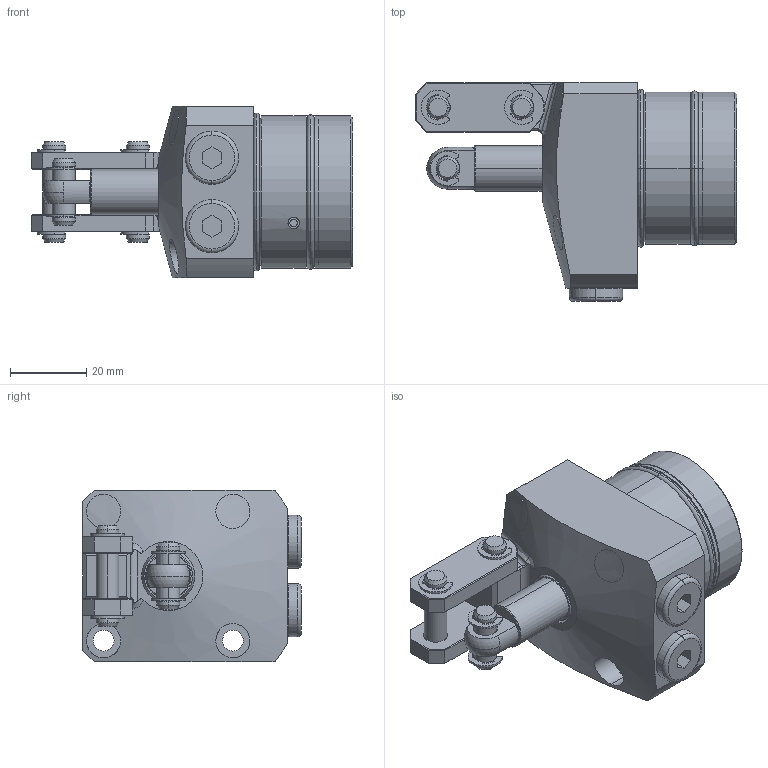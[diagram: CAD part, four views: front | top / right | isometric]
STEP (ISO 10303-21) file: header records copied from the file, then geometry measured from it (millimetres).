
FILE_DESCRIPTION(/* description */ (''),/* implementation_level */ '2;1');
FILE_NAME(/* name */ 'KTPW40-FJ.stp',/* time_stamp */ '2022-11-20T07:37:04+08:00',/* author */ (''),/* organization */ (''),/* preprocessor_version */ 'ST-DEVELOPER v16.7',/* originating_system */ 'SIEMENS PLM Software NX 12.0',/* authorisation */ '');
FILE_SCHEMA (('AP203_CONFIGURATION_CONTROLLED_3D_DESIGN_OF_MECHANICAL_PARTS_AND_ASSEMBLIES_MIM_LF { 1 0 10303 403 2 1 2}'));
Length unit declared in the file: millimetre
Products named in the file (10): KTPW40-FJ-08; KTPW40-FJ-01; KTPW40-FJ-06; KTPW40-FJ-07; KTPW40-FJ-0110; KTPW40-FJ-02; KTPW40-FJ-03; KTPW40-FJ-04; KTPW40-FJ-05; LKW0401-CCJ_step
Assembly tree (18 placements, depth 2):
  LKW0401-CCJ_step
    KTPW40-FJ-05  x2
    KTPW40-FJ-04  x2
    KTPW40-FJ-03
    KTPW40-FJ-02
    KTPW40-FJ-0110  x2
    KTPW40-FJ-07  x6
    KTPW40-FJ-06
    KTPW40-FJ-01
    KTPW40-FJ-08  x2
Bounding box: 84.5 x 57.5 x 45 mm (x, y, z)
Volume: 91371 mm3; surface area: 28040.8 mm2
Topology: 20 solids, 20 shells, 634 faces, 1466 edges, 907 vertices
Faces by surface type: cylinder 252, plane 190, torus 106, cone 76, bspline 8, sphere 2
Full cylindrical faces by diameter (mm): 40 x1
Entity records: 12108 total; most frequent: CARTESIAN_POINT 2687, DIRECTION 1855, ORIENTED_EDGE 1542, AXIS2_PLACEMENT_3D 779, EDGE_CURVE 771, VERTEX_POINT 468, CIRCLE 416, EDGE_LOOP 401
